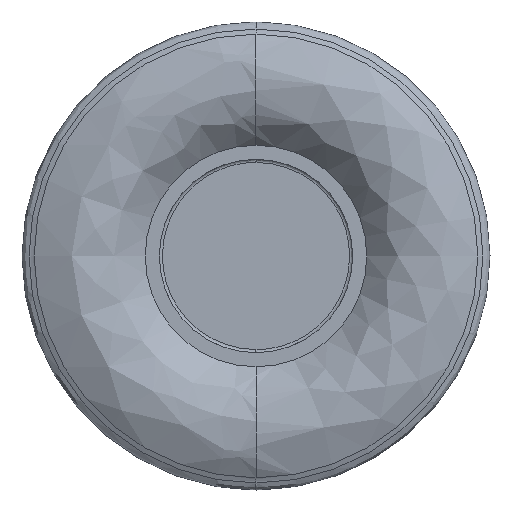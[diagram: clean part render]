
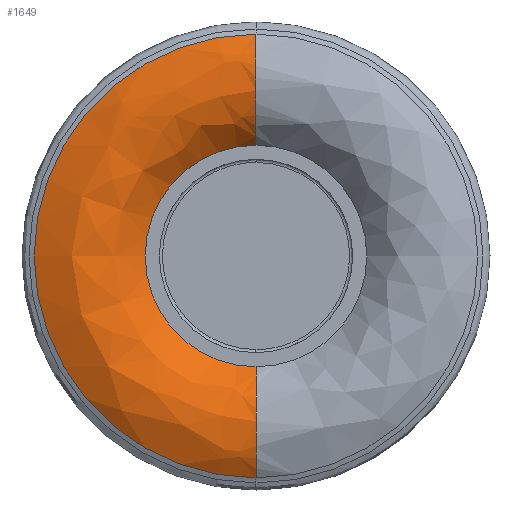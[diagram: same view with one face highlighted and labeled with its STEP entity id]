
A CAD part, front view. The second image highlights one B-rep face of the part: STEP entity #1649.
In plain terms, the highlighted free-form (B-spline) face has degree [3, 3] with [4, 4] control points.
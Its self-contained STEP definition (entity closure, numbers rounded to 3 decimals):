
#6 = ORIENTED_EDGE ( 'NONE', *, *, #430, .T. ) ;
#30 = CARTESIAN_POINT ( 'NONE',  ( 0., -5.672, -71.097 ) ) ;
#32 = ORIENTED_EDGE ( 'NONE', *, *, #66, .T. ) ;
#56 = CARTESIAN_POINT ( 'NONE',  ( 0., 0., 35.5 ) ) ;
#66 = EDGE_CURVE ( 'NONE', #1742, #489, #1211, .T. ) ;
#166 = EDGE_CURVE ( 'NONE', #273, #644, #969, .T. ) ;
#174 = CARTESIAN_POINT ( 'NONE',  ( 0., -5.672, -71.097 ) ) ;
#219 =( BOUNDED_SURFACE ( )  B_SPLINE_SURFACE ( 3, 3, ( 
 ( #1446, #1430, #687, #555 ),
 ( #440, #1050, #1829, #1177 ),
 ( #1184, #1921, #2271, #2163 ),
 ( #1690, #2252, #1502, #1209 ) ),
 .UNSPECIFIED., .F., .F., .T. ) 
 B_SPLINE_SURFACE_WITH_KNOTS ( ( 4, 4 ),
 ( 4, 4 ),
 ( 0., 1. ),
 ( 0., 1. ),
 .UNSPECIFIED. ) 
 GEOMETRIC_REPRESENTATION_ITEM ( )  RATIONAL_B_SPLINE_SURFACE ( (
 ( 1., 0.333, 0.333, 1.),
 ( 0.809, 0.27, 0.27, 0.809),
 ( 0.809, 0.27, 0.27, 0.809),
 ( 1., 0.333, 0.333, 1.) ) ) 
 REPRESENTATION_ITEM ( '' )  SURFACE ( )  );
#273 = VERTEX_POINT ( 'NONE', #174 ) ;
#329 = CARTESIAN_POINT ( 'NONE',  ( 0., -14.275, 58.994 ) ) ;
#351 = CARTESIAN_POINT ( 'NONE',  ( 0., -14.275, -58.994 ) ) ;
#430 = EDGE_CURVE ( 'NONE', #489, #644, #2278, .T. ) ;
#440 = CARTESIAN_POINT ( 'NONE',  ( 0., -11.939, 44.33 ) ) ;
#489 = VERTEX_POINT ( 'NONE', #56 ) ;
#520 = DIRECTION ( 'NONE',  ( 0., 0., -1. ) ) ;
#555 = CARTESIAN_POINT ( 'NONE',  ( 0., 0., -35.5 ) ) ;
#563 = DIRECTION ( 'NONE',  ( 0., 1., 0. ) ) ;
#644 = VERTEX_POINT ( 'NONE', #950 ) ;
#687 = CARTESIAN_POINT ( 'NONE',  ( -71., 0., -35.5 ) ) ;
#804 = FACE_OUTER_BOUND ( 'NONE', #1630, .T. ) ;
#826 = CARTESIAN_POINT ( 'NONE',  ( 0., -11.939, 44.33 ) ) ;
#950 = CARTESIAN_POINT ( 'NONE',  ( 0., -5.672, 71.097 ) ) ;
#969 = CIRCLE ( 'NONE', #1426, 71.097 ) ;
#971 = ORIENTED_EDGE ( 'NONE', *, *, #1626, .F. ) ;
#1050 = CARTESIAN_POINT ( 'NONE',  ( -88.659, -11.939, 44.33 ) ) ;
#1176 = CARTESIAN_POINT ( 'NONE',  ( 0., 0., 0. ) ) ;
#1177 = CARTESIAN_POINT ( 'NONE',  ( 0., -11.939, -44.33 ) ) ;
#1184 = CARTESIAN_POINT ( 'NONE',  ( 0., -14.275, 58.994 ) ) ;
#1209 = CARTESIAN_POINT ( 'NONE',  ( 0., -5.672, -71.097 ) ) ;
#1211 = CIRCLE ( 'NONE', #1464, 35.5 ) ;
#1220 = CARTESIAN_POINT ( 'NONE',  ( 0., 0., -35.5 ) ) ;
#1301 = DIRECTION ( 'NONE',  ( 0., 0., -1. ) ) ;
#1394 = CARTESIAN_POINT ( 'NONE',  ( 0., -5.672, 0. ) ) ;
#1426 = AXIS2_PLACEMENT_3D ( 'NONE', #1394, #563, #1301 ) ;
#1430 = CARTESIAN_POINT ( 'NONE',  ( -71., 0., 35.5 ) ) ;
#1439 = CARTESIAN_POINT ( 'NONE',  ( 0., -11.939, -44.33 ) ) ;
#1446 = CARTESIAN_POINT ( 'NONE',  ( 0., 0., 35.5 ) ) ;
#1464 = AXIS2_PLACEMENT_3D ( 'NONE', #1176, #1800, #520 ) ;
#1502 = CARTESIAN_POINT ( 'NONE',  ( -142.193, -5.672, -71.097 ) ) ;
#1530 = CARTESIAN_POINT ( 'NONE',  ( 0., -5.672, 71.097 ) ) ;
#1626 = EDGE_CURVE ( 'NONE', #1742, #273, #2179, .T. ) ;
#1630 = EDGE_LOOP ( 'NONE', ( #32, #6, #2146, #971 ) ) ;
#1649 = ADVANCED_FACE ( 'NONE', ( #804 ), #219, .T. ) ;
#1690 = CARTESIAN_POINT ( 'NONE',  ( 0., -5.672, 71.097 ) ) ;
#1742 = VERTEX_POINT ( 'NONE', #1220 ) ;
#1800 = DIRECTION ( 'NONE',  ( 0., 1., 0. ) ) ;
#1829 = CARTESIAN_POINT ( 'NONE',  ( -88.659, -11.939, -44.33 ) ) ;
#1836 = CARTESIAN_POINT ( 'NONE',  ( 0., 0., -35.5 ) ) ;
#1921 = CARTESIAN_POINT ( 'NONE',  ( -117.987, -14.275, 58.994 ) ) ;
#1983 = CARTESIAN_POINT ( 'NONE',  ( 0., 0., 35.5 ) ) ;
#2146 = ORIENTED_EDGE ( 'NONE', *, *, #166, .F. ) ;
#2163 = CARTESIAN_POINT ( 'NONE',  ( 0., -14.275, -58.994 ) ) ;
#2179 =( BOUNDED_CURVE ( )  B_SPLINE_CURVE ( 3, ( #1836, #1439, #351, #30 ),
 .UNSPECIFIED., .F., .F. ) 
 B_SPLINE_CURVE_WITH_KNOTS ( ( 4, 4 ),
 ( 0., 1. ),
 .UNSPECIFIED. ) 
 CURVE ( )  GEOMETRIC_REPRESENTATION_ITEM ( )  RATIONAL_B_SPLINE_CURVE ( ( 1., 0.809, 0.809, 1. ) ) 
 REPRESENTATION_ITEM ( '' )  );
#2252 = CARTESIAN_POINT ( 'NONE',  ( -142.193, -5.672, 71.097 ) ) ;
#2271 = CARTESIAN_POINT ( 'NONE',  ( -117.987, -14.275, -58.994 ) ) ;
#2278 =( BOUNDED_CURVE ( )  B_SPLINE_CURVE ( 3, ( #1983, #826, #329, #1530 ),
 .UNSPECIFIED., .F., .T. ) 
 B_SPLINE_CURVE_WITH_KNOTS ( ( 4, 4 ),
 ( 0., 1. ),
 .UNSPECIFIED. ) 
 CURVE ( )  GEOMETRIC_REPRESENTATION_ITEM ( )  RATIONAL_B_SPLINE_CURVE ( ( 1., 0.809, 0.809, 1. ) ) 
 REPRESENTATION_ITEM ( '' )  );
